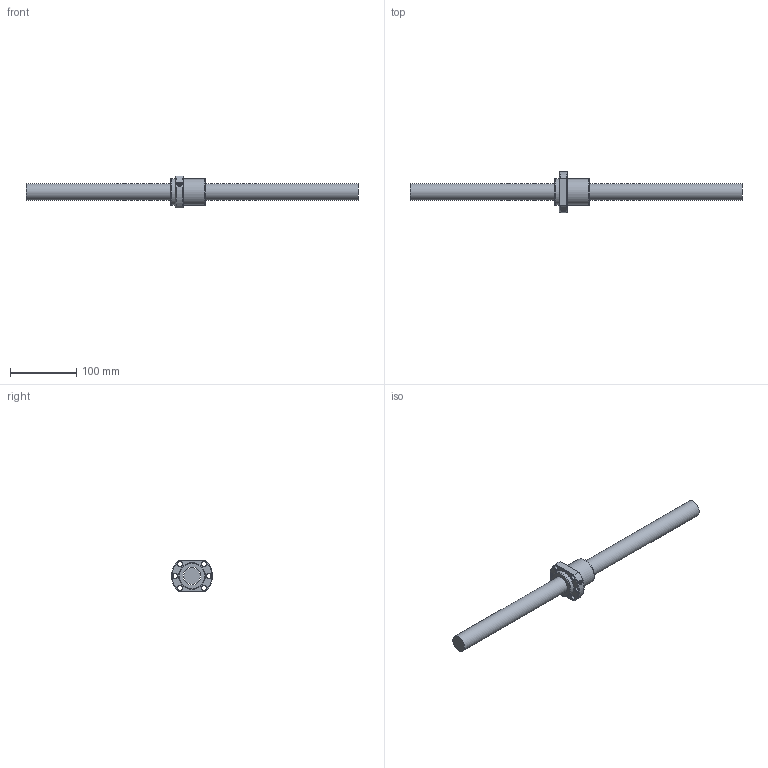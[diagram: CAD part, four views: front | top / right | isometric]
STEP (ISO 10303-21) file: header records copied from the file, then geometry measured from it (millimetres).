
FILE_DESCRIPTION (( 'STEP AP203' ), '1' );
FILE_NAME ('SFA2510-3.8.step', '2024-05-07T07:25:25', ( '' ), ( '' ), 'SwSTEP 2.0', 'SolidWorks 2022', '' );
FILE_SCHEMA (( 'CONFIG_CONTROL_DESIGN' ));
Length unit declared in the file: millimetre
Products named in the file (1): SFA2510-3.8
Bounding box: 500 x 61.8 x 48 mm (x, y, z)
Volume: 294476.7 mm3; surface area: 57073.8 mm2
Topology: 2 solids, 2 shells, 56 faces, 134 edges, 84 vertices
Faces by surface type: cylinder 19, plane 13, cone 13, torus 6, bspline 5
Full cylindrical faces by diameter (mm): 3.5 x1, 5 x5, 6.6 x6, 25 x1, 27.1 x1, 40 x2
Entity records: 3192 total; most frequent: CARTESIAN_POINT 2105, DIRECTION 198, ORIENTED_EDGE 172, EDGE_LOOP 96, AXIS2_PLACEMENT_3D 91, EDGE_CURVE 86, VERTEX_POINT 70, FACE_OUTER_BOUND 65
